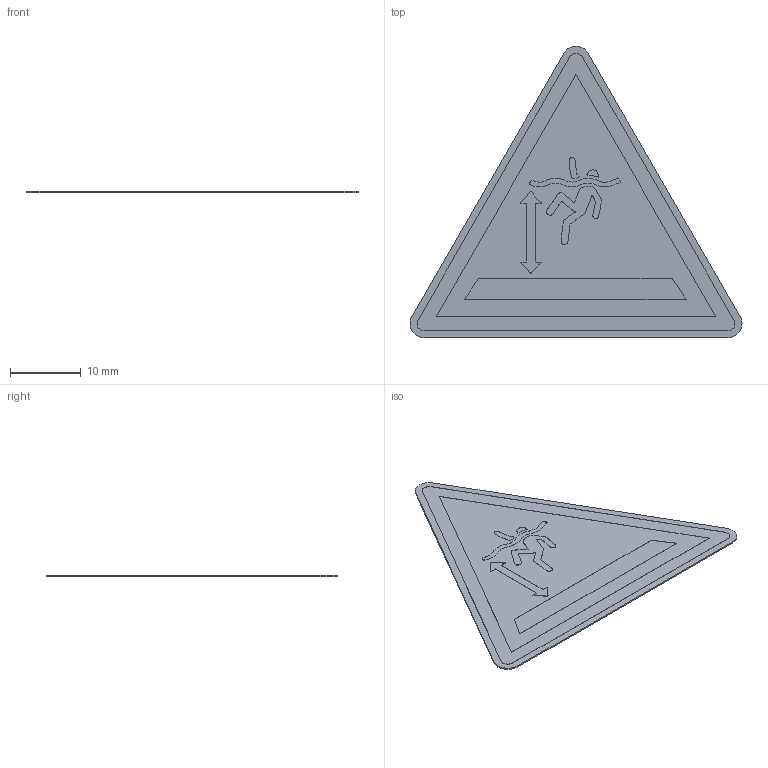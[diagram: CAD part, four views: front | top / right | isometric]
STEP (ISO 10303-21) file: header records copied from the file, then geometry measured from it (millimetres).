
FILE_DESCRIPTION (( 'STEP AP214' ), '1' );
FILE_NAME ('W047_Warnung vor tiefem Wasser.STEP', '2022-03-03T14:14:36', ( '' ), ( '' ), 'SwSTEP 2.0', 'SolidWorks 2021', '' );
FILE_SCHEMA (( 'AUTOMOTIVE_DESIGN' ));
Length unit declared in the file: millimetre
Products named in the file (1): W047_Warnung vor tiefem Wasser
Bounding box: 47.07 x 41.3 x 0.22 mm (x, y, z)
Volume: 222.8 mm3; surface area: 2185.5 mm2
Topology: 1 solids, 1 shells, 174 faces, 492 edges, 328 vertices
Faces by surface type: plane 124, cylinder 50
Entity records: 7465 total; most frequent: CARTESIAN_POINT 995, ORIENTED_EDGE 984, DIRECTION 942, EDGE_CURVE 492, LINE 392, VECTOR 392, VERTEX_POINT 328, AXIS2_PLACEMENT_3D 275
